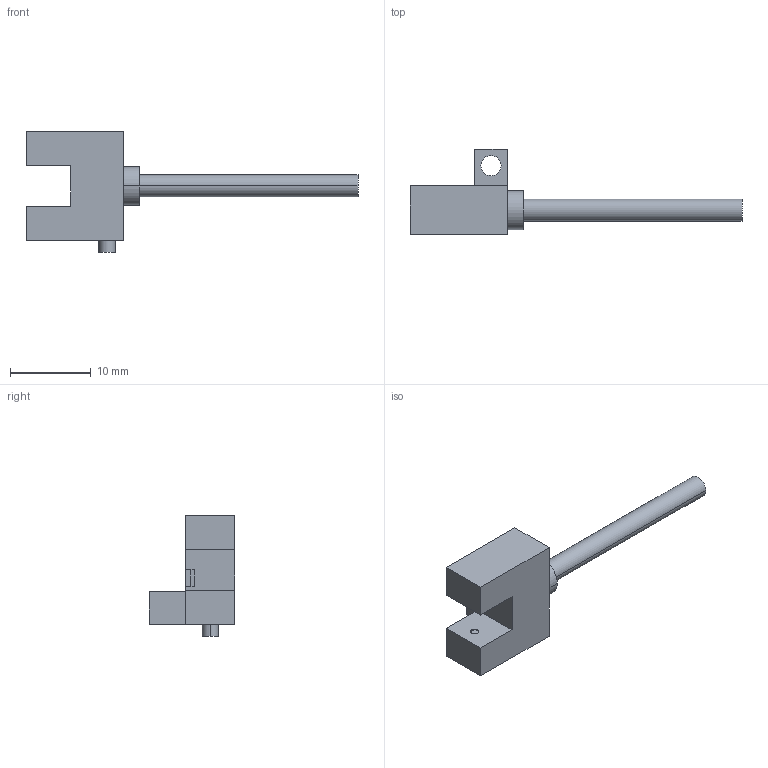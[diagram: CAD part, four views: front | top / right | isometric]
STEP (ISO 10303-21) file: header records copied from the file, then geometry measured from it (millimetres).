
FILE_DESCRIPTION (( 'STEP AP203' ), '1' );
FILE_NAME ('PM-R24.STEP', '2005-09-06T00:59:59', ( '' ), ( '' ), 'SwSTEP 2.0', 'SolidWorks 2004073', '' );
FILE_SCHEMA (( 'CONFIG_CONTROL_DESIGN' ));
Length unit declared in the file: millimetre
Products named in the file (1): PM-R24
Bounding box: 41 x 10.5 x 14.9 mm (x, y, z)
Volume: 1044.1 mm3; surface area: 1003.6 mm2
Topology: 1 solids, 1 shells, 36 faces, 87 edges, 58 vertices
Faces by surface type: plane 24, cylinder 12
Entity records: 1136 total; most frequent: DIRECTION 185, CARTESIAN_POINT 182, ORIENTED_EDGE 174, EDGE_CURVE 87, LINE 63, VECTOR 63, AXIS2_PLACEMENT_3D 61, VERTEX_POINT 58
